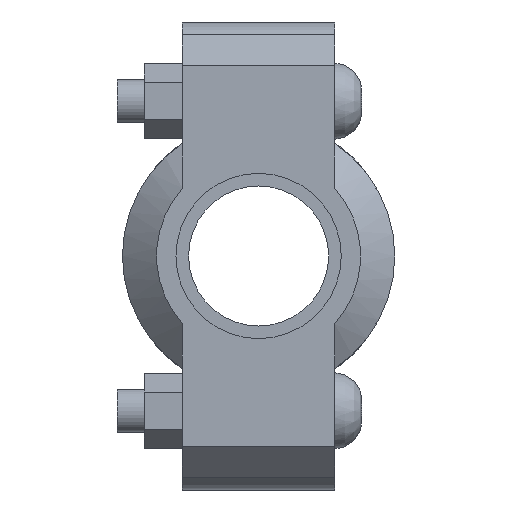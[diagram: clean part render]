
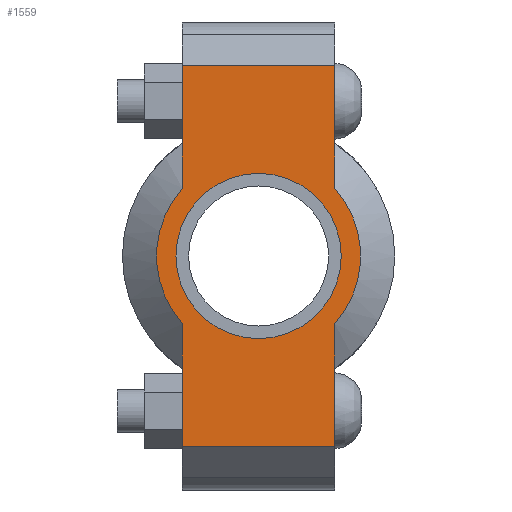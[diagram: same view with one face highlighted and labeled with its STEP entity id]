
A CAD part, left-side view. The second image highlights one B-rep face of the part: STEP entity #1559.
In plain terms, the highlighted planar face has unit normal (-1, 0, 0) as drawn and (0, 0, 1) by its records, which use the part's own axes.
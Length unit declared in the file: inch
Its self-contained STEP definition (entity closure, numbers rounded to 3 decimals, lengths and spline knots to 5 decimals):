
#170=LINE('',#2679,#265);
#185=LINE('',#2738,#280);
#193=LINE('',#2768,#288);
#195=LINE('',#2771,#290);
#196=LINE('',#2776,#291);
#197=LINE('',#2777,#292);
#265=VECTOR('',#2161,0.3937);
#280=VECTOR('',#2196,0.3937);
#288=VECTOR('',#2216,0.3937);
#290=VECTOR('',#2220,0.3937);
#291=VECTOR('',#2225,0.3937);
#292=VECTOR('',#2226,0.3937);
#352=FACE_BOUND('',#511,.T.);
#412=FACE_OUTER_BOUND('',#510,.T.);
#510=EDGE_LOOP('',(#1254,#1255,#1256,#1257,#1258,#1259,#1260,#1261));
#511=EDGE_LOOP('',(#1262));
#616=CIRCLE('',#1822,1.172);
#617=CIRCLE('',#1823,1.172);
#618=CIRCLE('',#1824,0.95);
#725=VERTEX_POINT('',#2676);
#726=VERTEX_POINT('',#2678);
#747=VERTEX_POINT('',#2733);
#748=VERTEX_POINT('',#2737);
#757=VERTEX_POINT('',#2763);
#758=VERTEX_POINT('',#2767);
#759=VERTEX_POINT('',#2773);
#760=VERTEX_POINT('',#2775);
#761=VERTEX_POINT('',#2779);
#895=EDGE_CURVE('',#726,#725,#170,.T.);
#920=EDGE_CURVE('',#748,#747,#185,.T.);
#933=EDGE_CURVE('',#758,#757,#193,.T.);
#935=EDGE_CURVE('',#758,#725,#195,.T.);
#936=EDGE_CURVE('',#757,#759,#616,.T.);
#937=EDGE_CURVE('',#759,#760,#196,.T.);
#938=EDGE_CURVE('',#748,#760,#197,.T.);
#939=EDGE_CURVE('',#747,#726,#617,.T.);
#940=EDGE_CURVE('',#761,#761,#618,.T.);
#1254=ORIENTED_EDGE('',*,*,#935,.F.);
#1255=ORIENTED_EDGE('',*,*,#933,.T.);
#1256=ORIENTED_EDGE('',*,*,#936,.T.);
#1257=ORIENTED_EDGE('',*,*,#937,.T.);
#1258=ORIENTED_EDGE('',*,*,#938,.F.);
#1259=ORIENTED_EDGE('',*,*,#920,.T.);
#1260=ORIENTED_EDGE('',*,*,#939,.T.);
#1261=ORIENTED_EDGE('',*,*,#895,.T.);
#1262=ORIENTED_EDGE('',*,*,#940,.T.);
#1411=PLANE('',#1821);
#1559=ADVANCED_FACE('',(#412,#352),#1411,.T.);
#1821=AXIS2_PLACEMENT_3D('',#2772,#2221,#2222);
#1822=AXIS2_PLACEMENT_3D('',#2774,#2223,#2224);
#1823=AXIS2_PLACEMENT_3D('',#2778,#2227,#2228);
#1824=AXIS2_PLACEMENT_3D('',#2780,#2229,#2230);
#2161=DIRECTION('',(1.,0.,0.));
#2196=DIRECTION('',(1.,0.,0.));
#2216=DIRECTION('',(-1.,0.,0.));
#2220=DIRECTION('',(0.,-1.,0.));
#2221=DIRECTION('center_axis',(0.,0.,1.));
#2222=DIRECTION('ref_axis',(-1.,0.,0.));
#2223=DIRECTION('center_axis',(0.,0.,1.));
#2224=DIRECTION('ref_axis',(1.,0.,0.));
#2225=DIRECTION('',(-1.,0.,0.));
#2226=DIRECTION('',(0.,1.,0.));
#2227=DIRECTION('center_axis',(0.,0.,1.));
#2228=DIRECTION('ref_axis',(1.,0.,0.));
#2229=DIRECTION('center_axis',(0.,0.,-1.));
#2230=DIRECTION('ref_axis',(1.,0.,0.));
#2676=CARTESIAN_POINT('',(2.19,-0.875,0.94));
#2678=CARTESIAN_POINT('',(0.77972,-0.875,0.94));
#2679=CARTESIAN_POINT('',(-2.69,-0.875,0.94));
#2733=CARTESIAN_POINT('',(-0.77972,-0.875,0.94));
#2737=CARTESIAN_POINT('',(-2.19,-0.875,0.94));
#2738=CARTESIAN_POINT('',(-2.69,-0.875,0.94));
#2763=CARTESIAN_POINT('',(0.77972,0.875,0.94));
#2767=CARTESIAN_POINT('',(2.19,0.875,0.94));
#2768=CARTESIAN_POINT('',(2.69,0.875,0.94));
#2771=CARTESIAN_POINT('',(2.19,-0.4375,0.94));
#2772=CARTESIAN_POINT('Origin',(0.,0.,
0.94));
#2773=CARTESIAN_POINT('',(-0.77972,0.875,0.94));
#2774=CARTESIAN_POINT('Origin',(0.,0.,0.94));
#2775=CARTESIAN_POINT('',(-2.19,0.875,0.94));
#2776=CARTESIAN_POINT('',(2.69,0.875,0.94));
#2777=CARTESIAN_POINT('',(-2.19,0.4375,0.94));
#2778=CARTESIAN_POINT('Origin',(0.,0.,0.94));
#2779=CARTESIAN_POINT('',(-0.95,0.,0.94));
#2780=CARTESIAN_POINT('Origin',(0.,0.,0.94));
